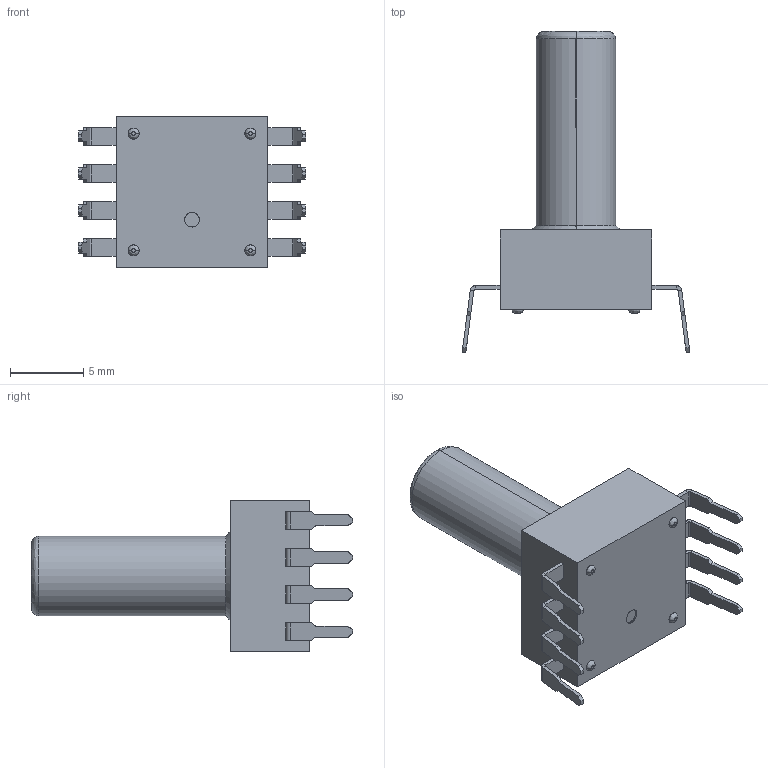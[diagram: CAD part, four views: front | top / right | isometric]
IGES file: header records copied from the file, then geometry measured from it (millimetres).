
Global section: preprocessor: SolidWorks 2010; organization: (C)Panasonic Corporation 2012; date: 120619.113847; units: millimetre
Bounding box: 15.59 x 21.98 x 10.4 mm (x, y, z)
Surface area: 864.3 mm2 (no closed solid volume)
Topology: 0 solids, 0 shells, 193 faces, 1208 edges, 1208 vertices
Faces by surface type: bspline 167, revolution 26
